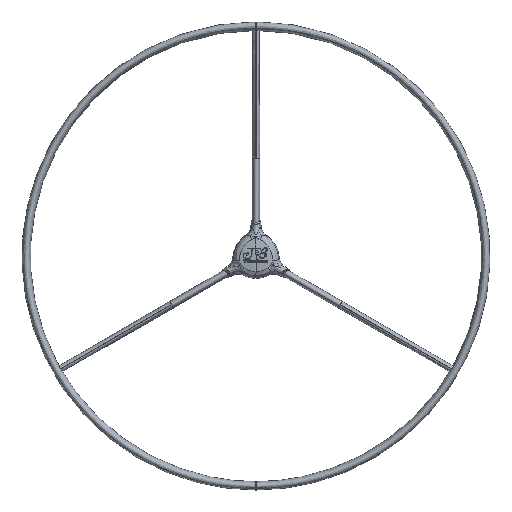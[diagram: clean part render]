
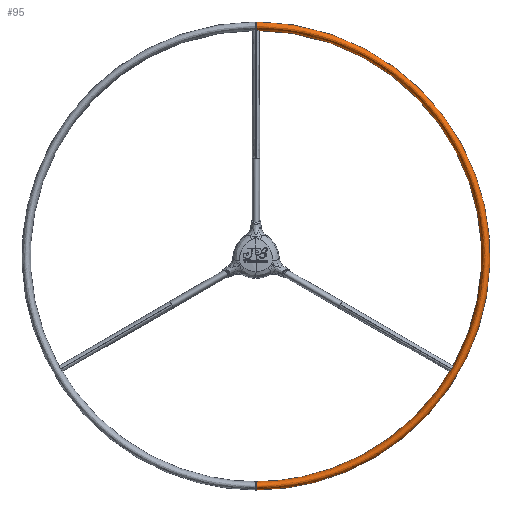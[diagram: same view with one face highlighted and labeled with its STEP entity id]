
A CAD part, front view. The second image highlights one B-rep face of the part: STEP entity #95.
In plain terms, the highlighted free-form (B-spline) face has degree [2, 2] with [5, 5] control points.
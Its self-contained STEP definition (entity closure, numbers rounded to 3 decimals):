
#95=ADVANCED_FACE('',(#310),#3054,.T.);
#310=FACE_OUTER_BOUND('',#526,.T.);
#526=EDGE_LOOP('',(#783,#784,#785,#786));
#783=ORIENTED_EDGE('',*,*,#1947,.T.);
#784=ORIENTED_EDGE('',*,*,#1943,.F.);
#785=ORIENTED_EDGE('',*,*,#1942,.F.);
#786=ORIENTED_EDGE('',*,*,#1941,.T.);
#1941=EDGE_CURVE('',#2577,#2581,#3514,.T.);
#1942=EDGE_CURVE('',#2577,#2578,#3515,.T.);
#1943=EDGE_CURVE('',#2578,#2582,#3516,.T.);
#1947=EDGE_CURVE('',#2581,#2582,#3518,.T.);
#2577=VERTEX_POINT('',#4405);
#2578=VERTEX_POINT('',#4406);
#2581=VERTEX_POINT('',#4409);
#2582=VERTEX_POINT('',#4410);
#3054=(
BOUNDED_SURFACE()
B_SPLINE_SURFACE(2,2,((#4229,#4230,#4231,#4232,#4233),(#4234,#4235,#4236,
#4237,#4238),(#4239,#4240,#4241,#4242,#4243),(#4244,#4245,#4246,#4247,#4248),
(#4249,#4250,#4251,#4252,#4253)),.UNSPECIFIED.,.F.,.F.,.F.)
B_SPLINE_SURFACE_WITH_KNOTS((3,2,3),(3,2,3),(0.,1.571,3.142),
(0.,3.142,6.283),.UNSPECIFIED.)
GEOMETRIC_REPRESENTATION_ITEM()
RATIONAL_B_SPLINE_SURFACE(((1.,0.707,1.,0.707,1.),
(0.707,0.5,0.707,0.5,0.707),(1.,0.707,
1.,0.707,1.),(0.707,0.5,0.707,0.5,0.707),
(1.,0.707,1.,0.707,1.)))
REPRESENTATION_ITEM('')
SURFACE()
);
#3514=(
BOUNDED_CURVE()
B_SPLINE_CURVE(2,(#4022,#4023,#4024,#4025,#4026),.UNSPECIFIED.,.F.,.F.)
B_SPLINE_CURVE_WITH_KNOTS((3,2,3),(0.,1.571,3.142),
.UNSPECIFIED.)
CURVE()
GEOMETRIC_REPRESENTATION_ITEM()
RATIONAL_B_SPLINE_CURVE((1.,0.707,1.,0.707,1.))
REPRESENTATION_ITEM('')
);
#3515=(
BOUNDED_CURVE()
B_SPLINE_CURVE(2,(#4027,#4028,#4029,#4030,#4031),.UNSPECIFIED.,.F.,.F.)
B_SPLINE_CURVE_WITH_KNOTS((3,2,3),(0.,3.142,6.283),
.UNSPECIFIED.)
CURVE()
GEOMETRIC_REPRESENTATION_ITEM()
RATIONAL_B_SPLINE_CURVE((1.,0.707,1.,0.707,1.))
REPRESENTATION_ITEM('')
);
#3516=(
BOUNDED_CURVE()
B_SPLINE_CURVE(2,(#4032,#4033,#4034,#4035,#4036),.UNSPECIFIED.,.F.,.F.)
B_SPLINE_CURVE_WITH_KNOTS((3,2,3),(0.,1.571,3.142),
.UNSPECIFIED.)
CURVE()
GEOMETRIC_REPRESENTATION_ITEM()
RATIONAL_B_SPLINE_CURVE((1.,0.707,1.,0.707,1.))
REPRESENTATION_ITEM('')
);
#3518=(
BOUNDED_CURVE()
B_SPLINE_CURVE(2,(#4090,#4091,#4092,#4093,#4094),.UNSPECIFIED.,.F.,.F.)
B_SPLINE_CURVE_WITH_KNOTS((3,2,3),(0.,3.142,6.283),
.UNSPECIFIED.)
CURVE()
GEOMETRIC_REPRESENTATION_ITEM()
RATIONAL_B_SPLINE_CURVE((1.,0.707,1.,0.707,1.))
REPRESENTATION_ITEM('')
);
#4022=CARTESIAN_POINT('',(0.,-21.,500.));
#4023=CARTESIAN_POINT('',(0.,-36.5,500.));
#4024=CARTESIAN_POINT('',(0.,-36.5,491.));
#4025=CARTESIAN_POINT('',(0.,-36.5,482.));
#4026=CARTESIAN_POINT('',(0.,-21.,482.));
#4027=CARTESIAN_POINT('',(0.,-21.,500.));
#4028=CARTESIAN_POINT('',(500.,-21.,500.));
#4029=CARTESIAN_POINT('',(500.,-21.,0.));
#4030=CARTESIAN_POINT('',(500.,-21.,-500.));
#4031=CARTESIAN_POINT('',(0.,-21.,-500.));
#4032=CARTESIAN_POINT('',(0.,-21.,-500.));
#4033=CARTESIAN_POINT('',(0.,-36.5,-500.));
#4034=CARTESIAN_POINT('',(0.,-36.5,-491.));
#4035=CARTESIAN_POINT('',(0.,-36.5,-482.));
#4036=CARTESIAN_POINT('',(0.,-21.,-482.));
#4090=CARTESIAN_POINT('',(0.,-21.,482.));
#4091=CARTESIAN_POINT('',(482.,-21.,482.));
#4092=CARTESIAN_POINT('',(482.,-21.,0.));
#4093=CARTESIAN_POINT('',(482.,-21.,-482.));
#4094=CARTESIAN_POINT('',(0.,-21.,-482.));
#4229=CARTESIAN_POINT('',(0.,-21.,500.));
#4230=CARTESIAN_POINT('',(500.,-21.,500.));
#4231=CARTESIAN_POINT('',(500.,-21.,0.));
#4232=CARTESIAN_POINT('',(500.,-21.,-500.));
#4233=CARTESIAN_POINT('',(0.,-21.,-500.));
#4234=CARTESIAN_POINT('',(0.,-36.5,500.));
#4235=CARTESIAN_POINT('',(500.,-36.5,500.));
#4236=CARTESIAN_POINT('',(500.,-36.5,0.));
#4237=CARTESIAN_POINT('',(500.,-36.5,-500.));
#4238=CARTESIAN_POINT('',(0.,-36.5,-500.));
#4239=CARTESIAN_POINT('',(0.,-36.5,491.));
#4240=CARTESIAN_POINT('',(491.,-36.5,491.));
#4241=CARTESIAN_POINT('',(491.,-36.5,0.));
#4242=CARTESIAN_POINT('',(491.,-36.5,-491.));
#4243=CARTESIAN_POINT('',(0.,-36.5,-491.));
#4244=CARTESIAN_POINT('',(0.,-36.5,482.));
#4245=CARTESIAN_POINT('',(482.,-36.5,482.));
#4246=CARTESIAN_POINT('',(482.,-36.5,0.));
#4247=CARTESIAN_POINT('',(482.,-36.5,-482.));
#4248=CARTESIAN_POINT('',(0.,-36.5,-482.));
#4249=CARTESIAN_POINT('',(0.,-21.,482.));
#4250=CARTESIAN_POINT('',(482.,-21.,482.));
#4251=CARTESIAN_POINT('',(482.,-21.,0.));
#4252=CARTESIAN_POINT('',(482.,-21.,-482.));
#4253=CARTESIAN_POINT('',(0.,-21.,-482.));
#4405=CARTESIAN_POINT('',(0.,-21.,500.));
#4406=CARTESIAN_POINT('',(0.,-21.,-500.));
#4409=CARTESIAN_POINT('',(0.,-21.,482.));
#4410=CARTESIAN_POINT('',(0.,-21.,-482.));
